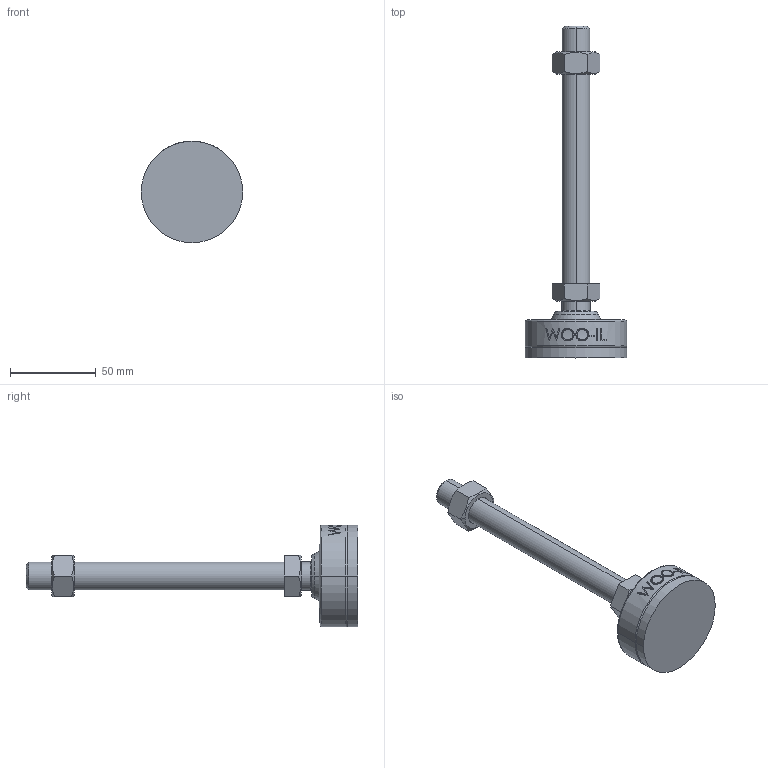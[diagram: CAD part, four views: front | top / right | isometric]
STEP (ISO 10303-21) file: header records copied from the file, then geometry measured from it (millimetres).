
FILE_DESCRIPTION (( 'STEP AP214' ), '1' );
FILE_NAME ('MFNR59-M16-150.step', '2021-02-22T09:06:52', ( '' ), ( '' ), 'SwSTEP 2.0', 'SolidWorks 2019', '' );
FILE_SCHEMA (( 'AUTOMOTIVE_DESIGN' ));
Length unit declared in the file: millimetre
Products named in the file (2): MFNR59-M16-150
Bounding box: 59 x 193 x 59 mm (x, y, z)
Volume: 103465.3 mm3; surface area: 21377 mm2
Topology: 2 solids, 2 shells, 105 faces, 245 edges, 156 vertices
Faces by surface type: plane 47, cone 18, cylinder 18, bspline 16, torus 4, sphere 2
Entity records: 4515 total; most frequent: CARTESIAN_POINT 2178, ORIENTED_EDGE 490, DIRECTION 437, EDGE_CURVE 245, AXIS2_PLACEMENT_3D 167, VERTEX_POINT 156, EDGE_LOOP 119, FACE_OUTER_BOUND 105
